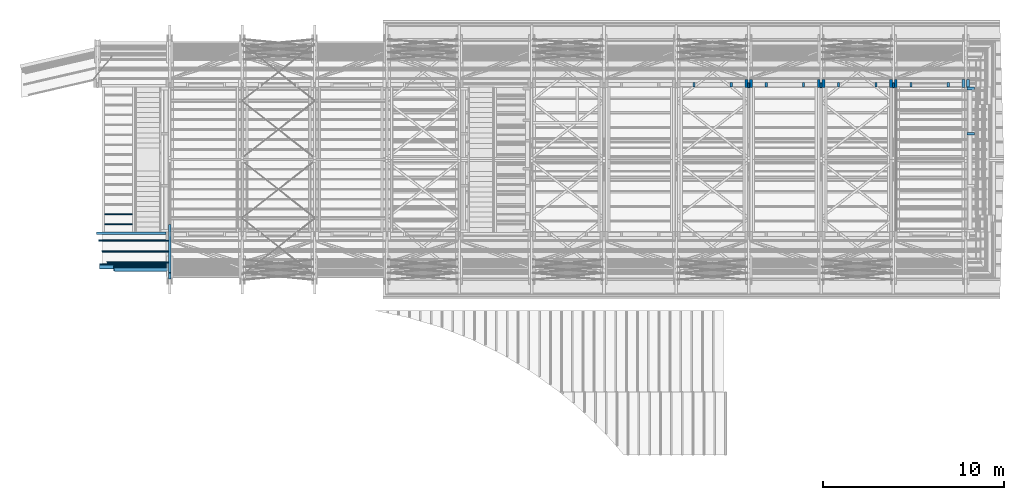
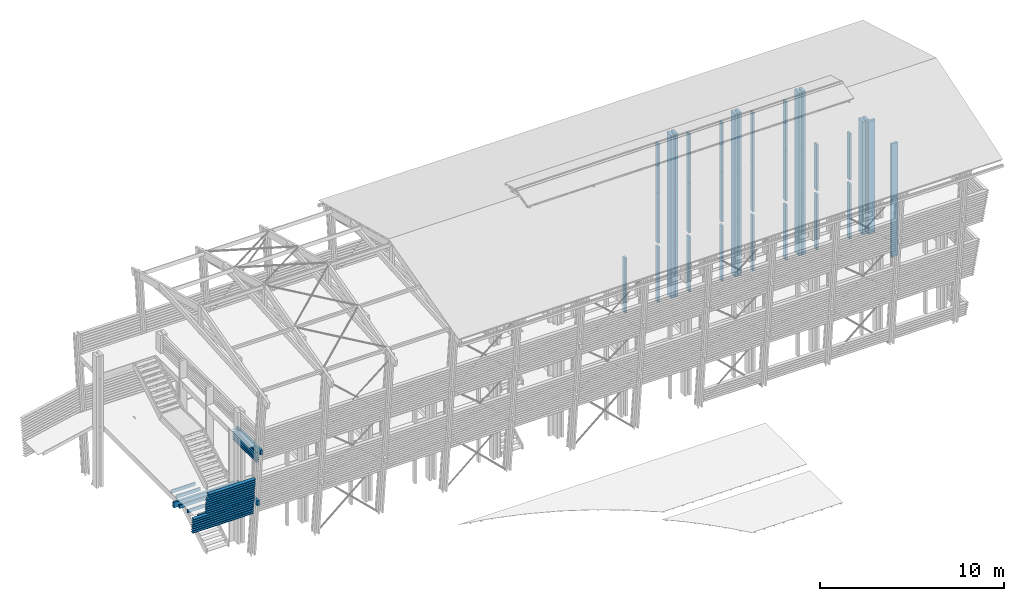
# One storey, part 4 of 48: 39 columns, 29 beams.
"""IFC2X3 building model written with IfcOpenShell, lengths in metres."""

from ifc_helpers import new_model, si_unit, direction, frame, origin_with_axes, place, context, subcontext, project, spatial, faceted_brep, material, element, save


model = new_model("IFC2X3")

# Units and contexts
model_context = context("Model", 3, precision=1e-06, world=origin_with_axes(), true_north=direction((0.0, 1.0, 0.0)))
body_context = subcontext(model_context, "Body", "Model", "MODEL_VIEW")
ifc_project = project(units=[si_unit("LENGTHUNIT", "METRE"), si_unit("AREAUNIT", "SQUARE_METRE"), si_unit("VOLUMEUNIT", "CUBIC_METRE"), si_unit("PLANEANGLEUNIT", "RADIAN")], contexts=[model_context])

# Site, building, storey
site_placement = place(None, origin_with_axes())
site = spatial("IfcSite", under=ifc_project, at=site_placement, CompositionType="ELEMENT")
building_placement = place(site_placement, origin_with_axes())
building = spatial("IfcBuilding", under=site, at=building_placement, Name="Building 1", CompositionType="ELEMENT")
storey_placement = place(building_placement, origin_with_axes())
storey = spatial("IfcBuildingStorey", under=building, at=storey_placement, Name="Storey 1", CompositionType="ELEMENT", Elevation=0.0)

# Columns
ifc_material_1 = material(Name="GL28h")
for number, where, z_axis, x_axis, name in (
    (1, (66.4597437, -185.0764881, 0.3), (0.0, 1.0, 0.0), (0.0, 0.0, 1.0), "poteau encadrement menuiserie"),
    (2, (68.5197437, -185.0764881, 0.3), (0.0, 1.0, 0.0), (0.0, 0.0, 1.0), "poteau encadrement menuiserie"),
):
    element("IfcColumn", number, at=place(storey_placement, frame(where, z_axis=z_axis, x_axis=x_axis)), inside=storey, material=ifc_material_1, Name=name, context=body_context, shape_type="Brep", body=[
        faceted_brep([(3.655, -0.06, -0.13), (0.0, -0.06, -0.13), (0.0, 0.06, -0.13), (3.655, 0.06, -0.13), (3.655, -0.06, 0.13), (0.0, -0.06, 0.13), (3.655, 0.06, 0.13), (0.0, 0.06, 0.13)], [[[0, 1, 2, 3]], [[4, 5, 1, 0]], [[6, 7, 5, 4]], [[3, 2, 7, 6]], [[3, 6, 4, 0]], [[7, 2, 1, 5]]]),
    ])
column_1_placement = place(storey_placement, frame((69.3597437, -184.9964881, 0.3), z_axis=(0.0, -1.0, 0.0), x_axis=(0.0, 0.0, 1.0)))
element("IfcColumn", 3, at=column_1_placement, inside=storey, material=ifc_material_1, Name="Poteau", context=body_context, shape_type="Brep", body=[
    faceted_brep([(7.49, 0.08, -0.23), (7.49, -0.08, -0.23), (0.0, -0.08, -0.23), (0.0, 0.08, -0.23), (7.49, -0.08, 0.23), (0.0, -0.08, 0.23), (7.49, 0.08, 0.23), (0.0, 0.08, 0.23)], [[[0, 1, 2, 3]], [[1, 4, 5, 2]], [[4, 6, 7, 5]], [[2, 5, 7, 3]], [[6, 0, 3, 7]], [[0, 6, 4, 1]]]),
])
column_2_placement = place(storey_placement, frame((66.4597437, -185.0764881, 4.215), z_axis=(0.0, -1.0, 0.0), x_axis=(0.0, 0.0, 1.0)))
element("IfcColumn", 4, at=column_2_placement, inside=storey, material=ifc_material_1, Name="poteau encadrement menuiserie", context=body_context, shape_type="Brep", body=[
    faceted_brep([(3.055, 0.06, -0.13), (3.055, -0.06, -0.13), (0.0, -0.06, -0.13), (0.0, 0.06, -0.13), (3.055, -0.06, 0.13), (0.0, -0.06, 0.13), (3.055, 0.06, 0.13), (0.0, 0.06, 0.13)], [[[0, 1, 2, 3]], [[1, 4, 5, 2]], [[4, 6, 7, 5]], [[6, 0, 3, 7]], [[0, 6, 4, 1]], [[7, 3, 2, 5]]]),
])
column_3_placement = place(storey_placement, frame((69.6197437, -184.9964881, 0.3), z_axis=(0.0, -1.0, 0.0), x_axis=(0.0, 0.0, 1.0)))
element("IfcColumn", 5, at=column_3_placement, inside=storey, material=ifc_material_1, Name="Poteau", context=body_context, shape_type="Brep", body=[
    faceted_brep([(7.49, 0.08, -0.23), (7.49, -0.08, -0.23), (0.0, -0.08, -0.23), (0.0, 0.08, -0.23), (7.49, -0.08, 0.23), (0.0, -0.08, 0.23), (7.49, 0.08, 0.23), (0.0, 0.08, 0.23)], [[[0, 1, 2, 3]], [[1, 4, 5, 2]], [[4, 6, 7, 5]], [[2, 5, 7, 3]], [[6, 0, 3, 7]], [[0, 6, 4, 1]]]),
])
column_4_placement = place(storey_placement, frame((68.5197437, -185.0764881, 4.215), z_axis=(0.0, -1.0, 0.0), x_axis=(0.0, 0.0, 1.0)))
element("IfcColumn", 6, at=column_4_placement, inside=storey, material=ifc_material_1, Name="poteau encadrement menuiserie", context=body_context, shape_type="Brep", body=[
    faceted_brep([(3.055, 0.06, -0.13), (3.055, -0.06, -0.13), (0.0, -0.06, -0.13), (0.0, 0.06, -0.13), (3.055, -0.06, 0.13), (0.0, -0.06, 0.13), (3.055, 0.06, 0.13), (0.0, 0.06, 0.13)], [[[0, 1, 2, 3]], [[1, 4, 5, 2]], [[4, 6, 7, 5]], [[6, 0, 3, 7]], [[0, 6, 4, 1]], [[7, 3, 2, 5]]]),
])
column_5_placement = place(storey_placement, frame((69.7697437, -185.2764885, 0.3), z_axis=(-1.0, 0.0, 0.0), x_axis=(0.0, 0.0, 1.0)))
element("IfcColumn", 7, at=column_5_placement, inside=storey, material=ifc_material_1, Name="poteau", context=body_context, shape_type="Brep", body=[
    faceted_brep([(7.49, -0.07, 0.21), (7.49, 0.07, 0.21), (0.0, 0.07, 0.21), (0.0, -0.07, 0.21), (7.49, 0.07, -0.21), (0.0, 0.07, -0.21), (7.49, -0.07, -0.21), (0.0, -0.07, -0.21)], [[[0, 1, 2, 3]], [[1, 4, 5, 2]], [[4, 6, 7, 5]], [[6, 0, 3, 7]], [[0, 6, 4, 1]], [[3, 2, 5, 7]]]),
])
column_6_placement = place(storey_placement, frame((69.7697437, -187.7680698, 0.3), z_axis=(1.0, 0.0, 0.0), x_axis=(0.0, 0.0, 1.0)))
element("IfcColumn", 8, at=column_6_placement, inside=storey, material=ifc_material_1, Name="poteau", context=body_context, shape_type="Brep", body=[
    faceted_brep([(7.49, 0.07, 0.21), (7.49, 0.07, -0.21), (0.0, 0.07, -0.21), (0.0, 0.07, 0.21), (7.49, -0.07, -0.21), (0.0, -0.07, -0.21), (7.49, -0.07, 0.21), (0.0, -0.07, 0.21)], [[[0, 1, 2, 3]], [[1, 4, 5, 2]], [[4, 6, 7, 5]], [[6, 0, 3, 7]], [[0, 6, 4, 1]], [[3, 2, 5, 7]]]),
])
column_7_placement = place(storey_placement, frame((62.4597437, -185.0764881, 7.495), z_axis=(0.0, 1.0, 0.0), x_axis=(0.0, 0.0, 1.0)))
element("IfcColumn", 9, at=column_7_placement, inside=storey, material=ifc_material_1, Name="poteau encadrement menuiserie", context=body_context, shape_type="Brep", body=[
    faceted_brep([(0.0, -0.06, 0.13), (3.285, -0.06, 0.13), (3.285, 0.06, 0.13), (0.0, 0.06, 0.13), (3.285, 0.06, -0.13), (0.0, 0.06, -0.13), (3.285, -0.06, -0.13), (0.0, -0.06, -0.13)], [[[0, 1, 2, 3]], [[3, 2, 4, 5]], [[5, 4, 6, 7]], [[7, 0, 3, 5]], [[7, 6, 1, 0]], [[1, 6, 4, 2]]]),
])
column_8_placement = place(storey_placement, frame((60.5197437, -185.0764881, 4.215), z_axis=(0.0, -1.0, 0.0), x_axis=(0.0, 0.0, 1.0)))
element("IfcColumn", 10, at=column_8_placement, inside=storey, material=ifc_material_1, Name="poteau encadrement menuiserie", context=body_context, shape_type="Brep", body=[
    faceted_brep([(3.3, 0.06, 0.13), (3.3, 0.06, -0.13), (0.0, 0.06, -0.13), (0.0, 0.06, 0.13), (3.3, -0.06, -0.13), (0.0, -0.06, -0.13), (3.3, -0.06, 0.13), (0.0, -0.06, 0.13)], [[[0, 1, 2, 3]], [[1, 4, 5, 2]], [[4, 6, 7, 5]], [[6, 0, 3, 7]], [[0, 6, 4, 1]], [[3, 2, 5, 7]]]),
])
column_9_placement = place(storey_placement, frame((62.4597437, -185.0764881, 0.3), z_axis=(0.0, 1.0, 0.0), x_axis=(0.0, 0.0, 1.0)))
element("IfcColumn", 11, at=column_9_placement, inside=storey, material=ifc_material_1, Name="poteau encadrement menuiserie", context=body_context, shape_type="Brep", body=[
    faceted_brep([(3.655, -0.06, -0.13), (0.0, -0.06, -0.13), (0.0, 0.06, -0.13), (3.655, 0.06, -0.13), (3.655, -0.06, 0.13), (0.0, -0.06, 0.13), (3.655, 0.06, 0.13), (0.0, 0.06, 0.13)], [[[0, 1, 2, 3]], [[4, 5, 1, 0]], [[6, 7, 5, 4]], [[3, 2, 7, 6]], [[3, 6, 4, 0]], [[7, 2, 1, 5]]]),
])
column_10_placement = place(storey_placement, frame((65.4897437, -185.0964881, 4.249), z_axis=(0.0, 1.0, 0.0), x_axis=(0.0, 0.0, 1.0)))
element("IfcColumn", 12, at=column_10_placement, inside=storey, material=ifc_material_1, Name="Fourrure", context=body_context, shape_type="Brep", body=[
    faceted_brep([(0.0, 0.05, -0.13), (0.0, -0.05, -0.13), (0.0, -0.05, 0.13), (0.0, 0.05, 0.13), (2.96, -0.05, -0.13), (2.96, -0.05, 0.13), (2.96, 0.05, -0.13), (2.96, 0.05, 0.13)], [[[0, 1, 2, 3]], [[2, 1, 4, 5]], [[1, 0, 6, 4]], [[3, 2, 5, 7]], [[0, 3, 7, 6]], [[6, 7, 5, 4]]]),
])
for number, where, z_axis, x_axis, name in (
    (13, (57.3597437, -184.9964881, 0.3), (0.0, 1.0, 0.0), (0.0, 0.0, 1.0), "Poteau"),
    (14, (65.6197437, -184.9964881, 0.3), (0.0, 1.0, 0.0), (0.0, 0.0, 1.0), "Poteau"),
    (15, (57.6197437, -184.9964881, 0.3), (0.0, 1.0, 0.0), (0.0, 0.0, 1.0), "Poteau"),
):
    element("IfcColumn", number, at=place(storey_placement, frame(where, z_axis=z_axis, x_axis=x_axis)), inside=storey, material=ifc_material_1, Name=name, context=body_context, shape_type="Brep", body=[
        faceted_brep([(10.8, 0.08, 0.23), (0.0, 0.08, 0.23), (0.0, -0.08, 0.23), (10.8, -0.08, 0.23), (10.8, 0.08, -0.23), (0.0, 0.08, -0.23), (10.8, -0.08, -0.23), (0.0, -0.08, -0.23)], [[[0, 1, 2, 3]], [[0, 4, 5, 1]], [[6, 7, 5, 4]], [[2, 7, 6, 3]], [[1, 5, 7, 2]], [[3, 6, 4, 0]]]),
    ])
for number, where, z_axis, x_axis in (
    (16, (61.4897437, -185.0964881, 7.529), (0.0, 1.0, 0.0), (0.0, 0.0, 1.0)),
    (17, (57.4897437, -185.0964881, 7.529), (0.0, 1.0, 0.0), (0.0, 0.0, 1.0)),
):
    element("IfcColumn", number, at=place(storey_placement, frame(where, z_axis=z_axis, x_axis=x_axis)), inside=storey, material=ifc_material_1, Name="Fourrure", context=body_context, shape_type="Brep", body=[
        faceted_brep([(0.0, -0.05, -0.13), (0.0, 0.05, -0.13), (3.571, 0.05, -0.13), (3.571, -0.05, -0.13), (0.0, -0.05, 0.13), (3.571, -0.05, 0.13), (0.0, 0.05, 0.13), (3.571, 0.05, 0.13)], [[[0, 1, 2, 3]], [[4, 0, 3, 5]], [[6, 4, 5, 7]], [[1, 6, 7, 2]], [[1, 0, 4, 6]], [[2, 7, 5, 3]]]),
    ])
column_11_placement = place(storey_placement, frame((57.4897437, -185.0964881, 4.249), z_axis=(0.0, 1.0, 0.0), x_axis=(0.0, 0.0, 1.0)))
element("IfcColumn", 18, at=column_11_placement, inside=storey, material=ifc_material_1, Name="Fourrure", context=body_context, shape_type="Brep", body=[
    faceted_brep([(0.0, 0.05, -0.13), (0.0, -0.05, -0.13), (0.0, -0.05, 0.13), (0.0, 0.05, 0.13), (2.96, -0.05, -0.13), (2.96, -0.05, 0.13), (2.96, 0.05, -0.13), (2.96, 0.05, 0.13)], [[[0, 1, 2, 3]], [[2, 1, 4, 5]], [[1, 0, 6, 4]], [[3, 2, 5, 7]], [[0, 3, 7, 6]], [[6, 7, 5, 4]]]),
])
for number, where, z_axis, x_axis in (
    (19, (57.4897437, -185.0964881, 0.3), (0.0, 1.0, 0.0), (0.0, 0.0, 1.0)),
    (20, (65.4897437, -185.0964881, 0.3), (0.0, 1.0, 0.0), (0.0, 0.0, 1.0)),
):
    element("IfcColumn", number, at=place(storey_placement, frame(where, z_axis=z_axis, x_axis=x_axis)), inside=storey, material=ifc_material_1, Name="Fourrure", context=body_context, shape_type="Brep", body=[
        faceted_brep([(3.629, 0.05, -0.13), (3.629, 0.05, 0.13), (3.629, -0.05, 0.13), (3.629, -0.05, -0.13), (0.0, 0.05, 0.13), (0.0, -0.05, 0.13), (0.0, 0.05, -0.13), (0.0, -0.05, -0.13)], [[[0, 1, 2, 3]], [[2, 1, 4, 5]], [[1, 0, 6, 4]], [[0, 3, 7, 6]], [[3, 2, 5, 7]], [[4, 6, 7, 5]]]),
    ])
column_12_placement = place(storey_placement, frame((61.3597437, -184.9964881, 0.3), z_axis=(0.0, 1.0, 0.0), x_axis=(0.0, 0.0, 1.0)))
element("IfcColumn", 21, at=column_12_placement, inside=storey, material=ifc_material_1, Name="Poteau", context=body_context, shape_type="Brep", body=[
    faceted_brep([(10.8, 0.08, 0.23), (0.0, 0.08, 0.23), (0.0, -0.08, 0.23), (10.8, -0.08, 0.23), (10.8, 0.08, -0.23), (0.0, 0.08, -0.23), (10.8, -0.08, -0.23), (0.0, -0.08, -0.23)], [[[0, 1, 2, 3]], [[0, 4, 5, 1]], [[6, 7, 5, 4]], [[2, 7, 6, 3]], [[1, 5, 7, 2]], [[3, 6, 4, 0]]]),
])
column_13_placement = place(storey_placement, frame((61.4897437, -185.0964881, 0.3), z_axis=(0.0, 1.0, 0.0), x_axis=(0.0, 0.0, 1.0)))
element("IfcColumn", 22, at=column_13_placement, inside=storey, material=ifc_material_1, Name="Fourrure", context=body_context, shape_type="Brep", body=[
    faceted_brep([(3.629, 0.05, -0.13), (3.629, 0.05, 0.13), (3.629, -0.05, 0.13), (3.629, -0.05, -0.13), (0.0, 0.05, 0.13), (0.0, -0.05, 0.13), (0.0, 0.05, -0.13), (0.0, -0.05, -0.13)], [[[0, 1, 2, 3]], [[2, 1, 4, 5]], [[1, 0, 6, 4]], [[0, 3, 7, 6]], [[3, 2, 5, 7]], [[4, 6, 7, 5]]]),
])
column_14_placement = place(storey_placement, frame((61.4897437, -185.0964881, 4.249), z_axis=(0.0, 1.0, 0.0), x_axis=(0.0, 0.0, 1.0)))
element("IfcColumn", 23, at=column_14_placement, inside=storey, material=ifc_material_1, Name="Fourrure", context=body_context, shape_type="Brep", body=[
    faceted_brep([(0.0, 0.05, -0.13), (0.0, -0.05, -0.13), (0.0, -0.05, 0.13), (0.0, 0.05, 0.13), (2.96, -0.05, -0.13), (2.96, -0.05, 0.13), (2.96, 0.05, -0.13), (2.96, 0.05, 0.13)], [[[0, 1, 2, 3]], [[2, 1, 4, 5]], [[1, 0, 6, 4]], [[3, 2, 5, 7]], [[0, 3, 7, 6]], [[6, 7, 5, 4]]]),
])
for number, where, z_axis, x_axis, name in (
    (24, (61.6197437, -184.9964881, 0.3), (0.0, 1.0, 0.0), (0.0, 0.0, 1.0), "Poteau"),
    (25, (65.3597437, -184.9964881, 0.3), (0.0, 1.0, 0.0), (0.0, 0.0, 1.0), "Poteau"),
):
    element("IfcColumn", number, at=place(storey_placement, frame(where, z_axis=z_axis, x_axis=x_axis)), inside=storey, material=ifc_material_1, Name=name, context=body_context, shape_type="Brep", body=[
        faceted_brep([(10.8, 0.08, 0.23), (0.0, 0.08, 0.23), (0.0, -0.08, 0.23), (10.8, -0.08, 0.23), (10.8, 0.08, -0.23), (0.0, 0.08, -0.23), (10.8, -0.08, -0.23), (0.0, -0.08, -0.23)], [[[0, 1, 2, 3]], [[0, 4, 5, 1]], [[6, 7, 5, 4]], [[2, 7, 6, 3]], [[1, 5, 7, 2]], [[3, 6, 4, 0]]]),
    ])
column_15_placement = place(storey_placement, frame((65.4897437, -185.0964881, 7.529), z_axis=(0.0, 1.0, 0.0), x_axis=(0.0, 0.0, 1.0)))
element("IfcColumn", 26, at=column_15_placement, inside=storey, material=ifc_material_1, Name="Fourrure", context=body_context, shape_type="Brep", body=[
    faceted_brep([(0.0, -0.05, -0.13), (0.0, 0.05, -0.13), (3.571, 0.05, -0.13), (3.571, -0.05, -0.13), (0.0, -0.05, 0.13), (3.571, -0.05, 0.13), (0.0, 0.05, 0.13), (3.571, 0.05, 0.13)], [[[0, 1, 2, 3]], [[4, 0, 3, 5]], [[6, 4, 5, 7]], [[1, 6, 7, 2]], [[1, 0, 4, 6]], [[2, 7, 5, 3]]]),
])
for number, where, z_axis, x_axis, name in (
    (27, (60.5197437, -185.0764881, 7.495), (0.0, -1.0, 0.0), (0.0, 0.0, 1.0), "poteau encadrement menuiserie"),
    (28, (64.5197437, -185.0764881, 7.495), (0.0, -1.0, 0.0), (0.0, 0.0, 1.0), "poteau encadrement menuiserie"),
):
    element("IfcColumn", number, at=place(storey_placement, frame(where, z_axis=z_axis, x_axis=x_axis)), inside=storey, material=ifc_material_1, Name=name, context=body_context, shape_type="Brep", body=[
        faceted_brep([(0.0, -0.06, 0.13), (3.285, -0.06, 0.13), (3.285, 0.06, 0.13), (0.0, 0.06, 0.13), (3.285, 0.06, -0.13), (0.0, 0.06, -0.13), (3.285, -0.06, -0.13), (0.0, -0.06, -0.13)], [[[0, 1, 2, 3]], [[3, 2, 4, 5]], [[5, 4, 6, 7]], [[7, 0, 3, 5]], [[7, 6, 1, 0]], [[1, 6, 4, 2]]]),
    ])
column_16_placement = place(storey_placement, frame((56.5197437, -185.0764881, 0.3), z_axis=(0.0, 1.0, 0.0), x_axis=(0.0, 0.0, 1.0)))
element("IfcColumn", 29, at=column_16_placement, inside=storey, material=ifc_material_1, Name="poteau encadrement menuiserie", context=body_context, shape_type="Brep", body=[
    faceted_brep([(3.655, -0.06, -0.13), (0.0, -0.06, -0.13), (0.0, 0.06, -0.13), (3.655, 0.06, -0.13), (3.655, -0.06, 0.13), (0.0, -0.06, 0.13), (3.655, 0.06, 0.13), (0.0, 0.06, 0.13)], [[[0, 1, 2, 3]], [[4, 5, 1, 0]], [[6, 7, 5, 4]], [[3, 2, 7, 6]], [[3, 6, 4, 0]], [[7, 2, 1, 5]]]),
])
for number, where, z_axis, x_axis, name in (
    (30, (58.4597437, -185.0764881, 7.495), (0.0, 1.0, 0.0), (0.0, 0.0, 1.0), "poteau encadrement menuiserie"),
    (31, (56.5197437, -185.0764881, 7.495), (0.0, -1.0, 0.0), (0.0, 0.0, 1.0), "poteau encadrement menuiserie"),
):
    element("IfcColumn", number, at=place(storey_placement, frame(where, z_axis=z_axis, x_axis=x_axis)), inside=storey, material=ifc_material_1, Name=name, context=body_context, shape_type="Brep", body=[
        faceted_brep([(0.0, -0.06, 0.13), (3.285, -0.06, 0.13), (3.285, 0.06, 0.13), (0.0, 0.06, 0.13), (3.285, 0.06, -0.13), (0.0, 0.06, -0.13), (3.285, -0.06, -0.13), (0.0, -0.06, -0.13)], [[[0, 1, 2, 3]], [[3, 2, 4, 5]], [[5, 4, 6, 7]], [[7, 0, 3, 5]], [[7, 6, 1, 0]], [[1, 6, 4, 2]]]),
    ])
for number, where, z_axis, x_axis, name in (
    (32, (54.4597437, -185.0764881, 0.3), (0.0, 1.0, 0.0), (0.0, 0.0, 1.0), "poteau encadrement menuiserie"),
    (33, (60.5197437, -185.0764881, 0.3), (0.0, 1.0, 0.0), (0.0, 0.0, 1.0), "poteau encadrement menuiserie"),
):
    element("IfcColumn", number, at=place(storey_placement, frame(where, z_axis=z_axis, x_axis=x_axis)), inside=storey, material=ifc_material_1, Name=name, context=body_context, shape_type="Brep", body=[
        faceted_brep([(3.655, -0.06, -0.13), (0.0, -0.06, -0.13), (0.0, 0.06, -0.13), (3.655, 0.06, -0.13), (3.655, -0.06, 0.13), (0.0, -0.06, 0.13), (3.655, 0.06, 0.13), (0.0, 0.06, 0.13)], [[[0, 1, 2, 3]], [[4, 5, 1, 0]], [[6, 7, 5, 4]], [[3, 2, 7, 6]], [[3, 6, 4, 0]], [[7, 2, 1, 5]]]),
    ])
column_17_placement = place(storey_placement, frame((56.5197437, -185.0764881, 4.215), z_axis=(0.0, -1.0, 0.0), x_axis=(0.0, 0.0, 1.0)))
element("IfcColumn", 34, at=column_17_placement, inside=storey, material=ifc_material_1, Name="poteau encadrement menuiserie", context=body_context, shape_type="Brep", body=[
    faceted_brep([(3.3, 0.06, 0.13), (3.3, 0.06, -0.13), (0.0, 0.06, -0.13), (0.0, 0.06, 0.13), (3.3, -0.06, -0.13), (0.0, -0.06, -0.13), (3.3, -0.06, 0.13), (0.0, -0.06, 0.13)], [[[0, 1, 2, 3]], [[1, 4, 5, 2]], [[4, 6, 7, 5]], [[6, 0, 3, 7]], [[0, 6, 4, 1]], [[3, 2, 5, 7]]]),
])
column_18_placement = place(storey_placement, frame((58.4597437, -185.0764881, 0.3), z_axis=(0.0, 1.0, 0.0), x_axis=(0.0, 0.0, 1.0)))
element("IfcColumn", 35, at=column_18_placement, inside=storey, material=ifc_material_1, Name="poteau encadrement menuiserie", context=body_context, shape_type="Brep", body=[
    faceted_brep([(3.655, -0.06, -0.13), (0.0, -0.06, -0.13), (0.0, 0.06, -0.13), (3.655, 0.06, -0.13), (3.655, -0.06, 0.13), (0.0, -0.06, 0.13), (3.655, 0.06, 0.13), (0.0, 0.06, 0.13)], [[[0, 1, 2, 3]], [[4, 5, 1, 0]], [[6, 7, 5, 4]], [[3, 2, 7, 6]], [[3, 6, 4, 0]], [[7, 2, 1, 5]]]),
])
for number, where, z_axis, x_axis, name in (
    (36, (58.4597437, -185.0764881, 4.215), (0.0, -1.0, 0.0), (0.0, 0.0, 1.0), "poteau encadrement menuiserie"),
    (37, (64.5197437, -185.0764881, 4.215), (0.0, -1.0, 0.0), (0.0, 0.0, 1.0), "poteau encadrement menuiserie"),
):
    element("IfcColumn", number, at=place(storey_placement, frame(where, z_axis=z_axis, x_axis=x_axis)), inside=storey, material=ifc_material_1, Name=name, context=body_context, shape_type="Brep", body=[
        faceted_brep([(3.3, 0.06, 0.13), (3.3, 0.06, -0.13), (0.0, 0.06, -0.13), (0.0, 0.06, 0.13), (3.3, -0.06, -0.13), (0.0, -0.06, -0.13), (3.3, -0.06, 0.13), (0.0, -0.06, 0.13)], [[[0, 1, 2, 3]], [[1, 4, 5, 2]], [[4, 6, 7, 5]], [[6, 0, 3, 7]], [[0, 6, 4, 1]], [[3, 2, 5, 7]]]),
    ])
column_19_placement = place(storey_placement, frame((64.5197437, -185.0764881, 0.3), z_axis=(0.0, 1.0, 0.0), x_axis=(0.0, 0.0, 1.0)))
element("IfcColumn", 38, at=column_19_placement, inside=storey, material=ifc_material_1, Name="poteau encadrement menuiserie", context=body_context, shape_type="Brep", body=[
    faceted_brep([(3.655, -0.06, -0.13), (0.0, -0.06, -0.13), (0.0, 0.06, -0.13), (3.655, 0.06, -0.13), (3.655, -0.06, 0.13), (0.0, -0.06, 0.13), (3.655, 0.06, 0.13), (0.0, 0.06, 0.13)], [[[0, 1, 2, 3]], [[4, 5, 1, 0]], [[6, 7, 5, 4]], [[3, 2, 7, 6]], [[3, 6, 4, 0]], [[7, 2, 1, 5]]]),
])
column_20_placement = place(storey_placement, frame((62.4597437, -185.0764881, 4.215), z_axis=(0.0, -1.0, 0.0), x_axis=(0.0, 0.0, 1.0)))
element("IfcColumn", 39, at=column_20_placement, inside=storey, material=ifc_material_1, Name="poteau encadrement menuiserie", context=body_context, shape_type="Brep", body=[
    faceted_brep([(3.3, 0.06, 0.13), (3.3, 0.06, -0.13), (0.0, 0.06, -0.13), (0.0, 0.06, 0.13), (3.3, -0.06, -0.13), (0.0, -0.06, -0.13), (3.3, -0.06, 0.13), (0.0, -0.06, 0.13)], [[[0, 1, 2, 3]], [[1, 4, 5, 2]], [[4, 6, 7, 5]], [[6, 0, 3, 7]], [[0, 6, 4, 1]], [[3, 2, 5, 7]]]),
])

# Beams
beam_1_placement = place(storey_placement, frame((21.8897437, -192.7830698, 4.139), z_axis=(0.0, 0.0, 1.0), x_axis=(1.0, 0.0, 0.0)))
element("IfcBeam", 40, at=beam_1_placement, inside=storey, material=ifc_material_1, Name="Solive", context=body_context, shape_type="Brep", body=[
    faceted_brep([(1.53, 0.035, 0.11), (1.53, 0.035, -0.11), (0.0, 0.035, -0.11), (0.0, 0.035, 0.11), (1.53, -0.035, -0.11), (0.0, -0.035, -0.11), (1.53, -0.035, 0.11), (0.0, -0.035, 0.11)], [[[0, 1, 2, 3]], [[1, 4, 5, 2]], [[4, 6, 7, 5]], [[6, 0, 3, 7]], [[1, 0, 6, 4]], [[7, 3, 2, 5]]]),
])
beam_2_placement = place(storey_placement, frame((22.0067754, -194.898689, 4.139), z_axis=(0.0, 0.0, 1.0), x_axis=(1.0, 0.0, 0.0)))
element("IfcBeam", 41, at=beam_2_placement, inside=storey, material=ifc_material_1, Name="Solive", context=body_context, shape_type="Brep", body=[
    faceted_brep([(0.0, 0.035, 0.11), (0.0, 0.035, -0.11), (0.032553, -0.035, -0.11), (0.032553, -0.035, 0.11), (3.4129683, 0.035, -0.11), (3.4129683, -0.035, -0.11), (3.4129683, 0.035, 0.11), (3.4129683, -0.035, 0.11)], [[[0, 1, 2, 3]], [[2, 1, 4, 5]], [[1, 0, 6, 4]], [[3, 2, 5, 7]], [[0, 3, 7, 6]], [[4, 6, 7, 5]]]),
])
ifc_material_2 = material(Name="Moabi")
for number, where, z_axis, x_axis, name in (
    (42, (25.3927439, -195.2111412, 4.8503738), (0.0, 0.9945219, 0.1045285), (-1.0, 0.0, 0.0), "garde corp"),
    (43, (25.3927439, -195.1944166, 4.6912503), (0.0, 0.9945219, 0.1045285), (-1.0, 0.0, 0.0), "garde corp"),
):
    element("IfcBeam", number, at=place(storey_placement, frame(where, z_axis=z_axis, x_axis=x_axis)), inside=storey, material=ifc_material_2, Name=name, context=body_context, shape_type="Brep", body=[
        faceted_brep([(3.0093263, 0.02, -0.1), (3.0093263, -0.02, -0.1), (0.0, -0.02, -0.1), (0.0, 0.02, -0.1), (3.0093263, -0.02, 0.1), (0.0, -0.02, 0.1), (3.0093263, 0.02, 0.1), (0.0, 0.02, 0.1)], [[[0, 1, 2, 3]], [[1, 4, 5, 2]], [[4, 6, 7, 5]], [[6, 0, 3, 7]], [[1, 0, 6, 4]], [[7, 3, 2, 5]]]),
    ])
for number, where, z_axis, x_axis, name in (
    (44, (25.3927439, -195.0940693, 3.7365093), (0.0, 0.9945219, 0.1045285), (-1.0, 0.0, 0.0), "garde corp"),
    (45, (25.3927439, -195.1107938, 3.8956328), (0.0, 0.9945219, 0.1045285), (-1.0, 0.0, 0.0), "garde corp"),
):
    element("IfcBeam", number, at=place(storey_placement, frame(where, z_axis=z_axis, x_axis=x_axis)), inside=storey, material=ifc_material_2, Name=name, context=body_context, shape_type="Brep", body=[
        faceted_brep([(3.8047069, 0.02, -0.1), (3.8047071, -0.02, -0.1), (0.0, -0.02, -0.1), (0.0, 0.02, -0.1), (3.8047071, -0.02, 0.1), (0.0, -0.02, 0.1), (3.8047071, 0.02, 0.1), (0.0, 0.02, 0.1)], [[[0, 1, 2, 3]], [[1, 4, 5, 2]], [[4, 6, 7, 5]], [[6, 0, 3, 7]], [[1, 0, 6, 4]], [[7, 3, 2, 5]]]),
    ])
beam_3_placement = place(storey_placement, frame((25.3927439, -195.2613148, 5.3277443), z_axis=(0.0, 0.9945219, 0.1045285), x_axis=(-1.0, 0.0, 0.0)))
element("IfcBeam", 46, at=beam_3_placement, inside=storey, material=ifc_material_2, Name="garde corp", context=body_context, shape_type="Brep", body=[
    faceted_brep([(3.0093265, 0.02, -0.1), (3.0093263, -0.02, -0.1), (0.0, -0.02, -0.1), (0.0, 0.02, -0.1), (3.0093263, -0.02, 0.1), (0.0, -0.02, 0.1), (3.0093263, 0.02, 0.1), (0.0, 0.02, 0.1)], [[[0, 1, 2, 3]], [[1, 4, 5, 2]], [[4, 6, 7, 5]], [[6, 0, 3, 7]], [[1, 0, 6, 4]], [[7, 3, 2, 5]]]),
])
beam_4_placement = place(storey_placement, frame((25.3927439, -195.2780394, 5.4868678), z_axis=(0.0, 0.9945219, 0.1045285), x_axis=(-1.0, 0.0, 0.0)))
element("IfcBeam", 47, at=beam_4_placement, inside=storey, material=ifc_material_2, Name="garde corp", context=body_context, shape_type="Brep", body=[
    faceted_brep([(2.9551296, 0.02, -0.1), (2.9551296, -0.02, -0.1), (0.0, -0.02, -0.1), (0.0, 0.02, -0.1), (2.9551296, -0.02, 0.1), (0.0, -0.02, 0.1), (2.9551296, 0.02, 0.1), (0.0, 0.02, 0.1)], [[[0, 1, 2, 3]], [[1, 4, 5, 2]], [[4, 6, 7, 5]], [[6, 0, 3, 7]], [[1, 0, 6, 4]], [[7, 3, 2, 5]]]),
])
beam_5_placement = place(storey_placement, frame((25.3927439, -195.2278657, 5.0094973), z_axis=(0.0, 0.9945219, 0.1045285), x_axis=(-1.0, 0.0, 0.0)))
element("IfcBeam", 48, at=beam_5_placement, inside=storey, material=ifc_material_2, Name="garde corp", context=body_context, shape_type="Brep", body=[
    faceted_brep([(3.0093265, 0.02, -0.1), (3.0093263, -0.02, -0.1), (0.0, -0.02, -0.1), (0.0, 0.02, -0.1), (3.0093263, -0.02, 0.1), (0.0, -0.02, 0.1), (3.0093263, 0.02, 0.1), (0.0, 0.02, 0.1)], [[[0, 1, 2, 3]], [[1, 4, 5, 2]], [[4, 6, 7, 5]], [[6, 0, 3, 7]], [[1, 0, 6, 4]], [[7, 3, 2, 5]]]),
])
beam_6_placement = place(storey_placement, frame((25.3927439, -195.2445903, 5.1686208), z_axis=(0.0, 0.9945219, 0.1045285), x_axis=(-1.0, 0.0, 0.0)))
element("IfcBeam", 49, at=beam_6_placement, inside=storey, material=ifc_material_2, Name="garde corp", context=body_context, shape_type="Brep", body=[
    faceted_brep([(3.0093263, 0.02, -0.1), (3.0093263, -0.02, -0.1), (0.0, -0.02, -0.1), (0.0, 0.02, -0.1), (3.0093263, -0.02, 0.1), (0.0, -0.02, 0.1), (3.0093263, 0.02, 0.1), (0.0, 0.02, 0.1)], [[[0, 1, 2, 3]], [[1, 4, 5, 2]], [[4, 6, 7, 5]], [[6, 0, 3, 7]], [[1, 0, 6, 4]], [[7, 3, 2, 5]]]),
])
beam_7_placement = place(storey_placement, frame((25.3927439, -195.1442429, 4.2138798), z_axis=(0.0, 0.9945219, 0.1045285), x_axis=(-1.0, 0.0, 0.0)))
element("IfcBeam", 50, at=beam_7_placement, inside=storey, material=ifc_material_2, Name="garde corp", context=body_context, shape_type="Brep", body=[
    faceted_brep([(3.8048051, 0.02, -0.1), (3.8048051, -0.02, -0.1), (0.0, -0.02, -0.1), (0.0, 0.02, -0.1), (3.8048051, -0.02, 0.1), (0.0, -0.02, 0.1), (3.8048051, 0.02, 0.1), (0.0, 0.02, 0.1)], [[[0, 1, 2, 3]], [[1, 4, 5, 2]], [[4, 6, 7, 5]], [[6, 0, 3, 7]], [[1, 0, 6, 4]], [[7, 3, 2, 5]]]),
])
beam_8_placement = place(storey_placement, frame((25.3927439, -195.177692, 4.5321268), z_axis=(0.0, 0.9945219, 0.1045285), x_axis=(-1.0, 0.0, 0.0)))
element("IfcBeam", 51, at=beam_8_placement, inside=storey, material=ifc_material_2, Name="garde corp", context=body_context, shape_type="Brep", body=[
    faceted_brep([(3.0093263, 0.02, -0.1), (3.0093263, -0.02, -0.1), (0.0, -0.02, -0.1), (0.0, 0.02, -0.1), (3.0093263, -0.02, 0.1), (0.0, -0.02, 0.1), (3.0093263, 0.02, 0.1), (0.0, 0.02, 0.1)], [[[0, 1, 2, 3]], [[1, 4, 5, 2]], [[4, 6, 7, 5]], [[6, 0, 3, 7]], [[1, 0, 6, 4]], [[7, 3, 2, 5]]]),
])
beam_9_placement = place(storey_placement, frame((25.3927439, -195.0438956, 3.2591388), z_axis=(0.0, 0.9945219, 0.1045285), x_axis=(-1.0, 0.0, 0.0)))
element("IfcBeam", 52, at=beam_9_placement, inside=storey, material=ifc_material_2, Name="garde corp", context=body_context, shape_type="Brep", body=[
    faceted_brep([(3.8048051, 0.02, -0.1), (3.8048051, -0.02, -0.1), (0.0, -0.02, -0.1), (0.0, 0.02, -0.1), (3.8048051, -0.02, 0.1), (0.0, -0.02, 0.1), (3.8048051, 0.02, 0.1), (0.0, 0.02, 0.1)], [[[0, 1, 2, 3]], [[1, 4, 5, 2]], [[4, 6, 7, 5]], [[6, 0, 3, 7]], [[1, 0, 6, 4]], [[7, 3, 2, 5]]]),
])
beam_10_placement = place(storey_placement, frame((25.3927439, -195.1609675, 4.3730033), z_axis=(0.0, 0.9945219, 0.1045285), x_axis=(-1.0, 0.0, 0.0)))
element("IfcBeam", 53, at=beam_10_placement, inside=storey, material=ifc_material_2, Name="garde corp", context=body_context, shape_type="Brep", body=[
    faceted_brep([(3.0093263, 0.02, -0.1), (3.0093263, -0.02, -0.1), (0.0, -0.02, -0.1), (0.0, 0.02, -0.1), (3.0093263, -0.02, 0.1), (0.0, -0.02, 0.1), (3.0093263, 0.02, 0.1), (0.0, 0.02, 0.1)], [[[0, 1, 2, 3]], [[1, 4, 5, 2]], [[4, 6, 7, 5]], [[6, 0, 3, 7]], [[1, 0, 6, 4]], [[7, 3, 2, 5]]]),
])
beam_11_placement = place(storey_placement, frame((25.3927439, -195.0773447, 3.5773858), z_axis=(0.0, 0.9945219, 0.1045285), x_axis=(-1.0, 0.0, 0.0)))
element("IfcBeam", 54, at=beam_11_placement, inside=storey, material=ifc_material_2, Name="garde corp", context=body_context, shape_type="Brep", body=[
    faceted_brep([(3.8047071, 0.02, -0.1), (3.8047071, -0.02, -0.1), (0.0, -0.02, -0.1), (0.0, 0.02, -0.1), (3.8047071, -0.02, 0.1), (0.0, -0.02, 0.1), (3.8047071, 0.02, 0.1), (0.0, 0.02, 0.1)], [[[0, 1, 2, 3]], [[1, 4, 5, 2]], [[4, 6, 7, 5]], [[6, 0, 3, 7]], [[1, 0, 6, 4]], [[7, 3, 2, 5]]]),
])
beam_12_placement = place(storey_placement, frame((25.3927439, -195.2947639, 5.6459913), z_axis=(0.0, 0.9945219, 0.1045285), x_axis=(-1.0, 0.0, 0.0)))
element("IfcBeam", 55, at=beam_12_placement, inside=storey, material=ifc_material_2, Name="garde corp", context=body_context, shape_type="Brep", body=[
    faceted_brep([(2.9551296, 0.02, -0.1), (2.9551296, -0.02, -0.1), (0.0, -0.02, -0.1), (0.0, 0.02, -0.1), (2.9551296, -0.02, 0.1), (0.0, -0.02, 0.1), (2.9551296, 0.02, 0.1), (0.0, 0.02, 0.1)], [[[0, 1, 2, 3]], [[1, 4, 5, 2]], [[4, 6, 7, 5]], [[6, 0, 3, 7]], [[1, 0, 6, 4]], [[7, 3, 2, 5]]]),
])
beam_13_placement = place(storey_placement, frame((25.3927439, -195.1275184, 4.0547563), z_axis=(0.0, 0.9945219, 0.1045285), x_axis=(-1.0, 0.0, 0.0)))
element("IfcBeam", 56, at=beam_13_placement, inside=storey, material=ifc_material_2, Name="garde corp", context=body_context, shape_type="Brep", body=[
    faceted_brep([(3.8048051, 0.02, -0.1), (3.8048051, -0.02, -0.1), (0.0, -0.02, -0.1), (0.0, 0.02, -0.1), (3.8048051, -0.02, 0.1), (0.0, -0.02, 0.1), (3.8048051, 0.02, 0.1), (0.0, 0.02, 0.1)], [[[0, 1, 2, 3]], [[1, 4, 5, 2]], [[4, 6, 7, 5]], [[6, 0, 3, 7]], [[1, 0, 6, 4]], [[7, 3, 2, 5]]]),
])
beam_14_placement = place(storey_placement, frame((25.3927439, -195.0606202, 3.4182623), z_axis=(0.0, 0.9945219, 0.1045285), x_axis=(-1.0, 0.0, 0.0)))
element("IfcBeam", 57, at=beam_14_placement, inside=storey, material=ifc_material_2, Name="garde corp", context=body_context, shape_type="Brep", body=[
    faceted_brep([(3.8047069, 0.02, -0.1), (3.8047069, -0.02, -0.1), (0.0, -0.02, -0.1), (0.0, 0.02, -0.1), (3.8047069, -0.02, 0.1), (0.0, -0.02, 0.1), (3.8047071, 0.02, 0.1), (0.0, 0.02, 0.1)], [[[0, 1, 2, 3]], [[1, 4, 5, 2]], [[4, 6, 7, 5]], [[6, 0, 3, 7]], [[1, 0, 6, 4]], [[7, 3, 2, 5]]]),
])
beam_15_placement = place(storey_placement, frame((21.4320677, -193.2796515, 4.069), z_axis=(0.0, 0.0, 1.0), x_axis=(1.0, 0.0, 0.0)))
element("IfcBeam", 58, at=beam_15_placement, inside=storey, material=ifc_material_1, Name="Sommier", context=body_context, shape_type="Brep", body=[
    faceted_brep([(3.847676, 0.07, 0.18), (3.847676, 0.07, -0.18), (0.0, 0.07, -0.18), (0.0, 0.07, 0.18), (3.847676, -0.07, -0.18), (0.0, -0.07, -0.18), (3.847676, -0.07, 0.18), (0.0, -0.07, 0.18)], [[[0, 1, 2, 3]], [[1, 4, 5, 2]], [[4, 6, 7, 5]], [[6, 0, 3, 7]], [[1, 0, 6, 4]], [[7, 3, 2, 5]]]),
])
beam_16_placement = place(storey_placement, frame((21.5597437, -193.6846515, 4.139), z_axis=(0.0, 0.0, 1.0), x_axis=(1.0, 0.0, 0.0)))
element("IfcBeam", 59, at=beam_16_placement, inside=storey, material=ifc_material_1, Name="Solive", context=body_context, shape_type="Brep", body=[
    faceted_brep([(3.86, 0.035, 0.11), (3.86, 0.035, -0.11), (0.0, 0.035, -0.11), (0.0, 0.035, 0.11), (3.86, -0.035, -0.11), (0.0, -0.035, -0.11), (3.86, -0.035, 0.11), (0.0, -0.035, 0.11)], [[[0, 1, 2, 3]], [[1, 4, 5, 2]], [[4, 6, 7, 5]], [[6, 0, 3, 7]], [[1, 0, 6, 4]], [[7, 3, 2, 5]]]),
])
beam_17_placement = place(storey_placement, frame((21.7198356, -194.2816702, 4.139), z_axis=(0.0, 0.0, 1.0), x_axis=(1.0, 0.0, 0.0)))
element("IfcBeam", 60, at=beam_17_placement, inside=storey, material=ifc_material_1, Name="Solive", context=body_context, shape_type="Brep", body=[
    faceted_brep([(0.0, 0.035, 0.11), (0.0, 0.035, -0.11), (0.032553, -0.035, -0.11), (0.032553, -0.035, 0.11), (3.6999081, 0.035, -0.11), (3.6999081, -0.035, -0.11), (3.6999081, 0.035, 0.11), (3.6999081, -0.035, 0.11)], [[[0, 1, 2, 3]], [[2, 1, 4, 5]], [[1, 0, 6, 4]], [[3, 2, 5, 7]], [[0, 3, 7, 6]], [[4, 6, 7, 5]]]),
])
beam_18_placement = place(storey_placement, frame((25.4897437, -193.1896515, 7.649), z_axis=(0.0, 0.0, 1.0), x_axis=(0.0, -1.0, 0.0)))
element("IfcBeam", 61, at=beam_18_placement, inside=storey, material=ifc_material_1, Name="Sommier Coursive", context=body_context, shape_type="Brep", body=[
    faceted_brep([(0.0, -0.05, -0.16), (0.44, -0.05, -0.16), (0.44, -0.05, 0.16), (0.0, -0.05, 0.16), (0.44, -0.07, -0.16), (0.44, -0.07, 0.16), (0.0, 0.05, 0.16), (0.0, 0.05, -0.16), (2.6285375, -0.07, 0.16), (2.6285375, 0.07, 0.16), (0.44, 0.07, 0.16), (0.44, 0.05, 0.16), (0.44, 0.05, -0.16), (0.44, 0.07, -0.16), (2.6285375, -0.07, -0.16), (2.6285375, 0.07, -0.16)], [[[0, 1, 2, 3]], [[1, 4, 5, 2]], [[0, 3, 6, 7]], [[3, 2, 5, 8, 9, 10, 11, 6]], [[6, 11, 12, 7]], [[11, 10, 13, 12]], [[5, 4, 14, 8]], [[1, 0, 7, 12, 13, 15, 14, 4]], [[13, 10, 9, 15]], [[9, 8, 14, 15]]]),
])
beam_19_placement = place(storey_placement, frame((25.4897437, -193.1896515, 4.089), z_axis=(0.0, 0.0, 1.0), x_axis=(0.0, -1.0, 0.0)))
element("IfcBeam", 62, at=beam_19_placement, inside=storey, material=ifc_material_1, Name="Sommier Coursive", context=body_context, shape_type="Brep", body=[
    faceted_brep([(0.0, 0.05, 0.16), (0.44, 0.05, 0.16), (0.44, 0.05, -0.16), (0.0, 0.05, -0.16), (0.44, 0.07, 0.16), (0.44, 0.07, -0.16), (0.0, -0.05, 0.16), (0.44, -0.05, 0.16), (0.44, -0.07, 0.16), (2.2900003, -0.07, 0.16), (2.2900003, 0.07, 0.16), (0.0, -0.05, -0.16), (0.44, -0.05, -0.16), (0.44, -0.07, -0.16), (2.2900003, 0.07, -0.16), (2.2900003, -0.07, -0.16)], [[[0, 1, 2, 3]], [[1, 4, 5, 2]], [[4, 1, 0, 6, 7, 8, 9, 10]], [[0, 3, 11, 6]], [[11, 12, 7, 6]], [[12, 13, 8, 7]], [[2, 5, 14, 15, 13, 12, 11, 3]], [[8, 13, 15, 9]], [[5, 4, 10, 14]], [[10, 9, 15, 14]]]),
])
beam_20_placement = place(storey_placement, frame((21.8897437, -192.2330698, 4.139), z_axis=(0.0, 0.0, 1.0), x_axis=(1.0, 0.0, 0.0)))
element("IfcBeam", 63, at=beam_20_placement, inside=storey, material=ifc_material_1, Name="Solive", context=body_context, shape_type="Brep", body=[
    faceted_brep([(1.53, 0.035, 0.11), (1.53, 0.035, -0.11), (0.0, 0.035, -0.11), (0.0, 0.035, 0.11), (1.53, -0.035, -0.11), (0.0, -0.035, -0.11), (1.53, -0.035, 0.11), (0.0, -0.035, 0.11)], [[[0, 1, 2, 3]], [[1, 4, 5, 2]], [[4, 6, 7, 5]], [[6, 0, 3, 7]], [[1, 0, 6, 4]], [[7, 3, 2, 5]]]),
])
beam_21_placement = place(storey_placement, frame((25.4897441, -192.7996515, 7.232), z_axis=(1.0, 0.0, 0.0), x_axis=(0.0, -1.0, 0.0)))
element("IfcBeam", 64, at=beam_21_placement, inside=storey, material=ifc_material_2, Name="garde corp", context=body_context, shape_type="Brep", body=[
    faceted_brep([(2.6564032, -0.02, 0.07), (2.6564032, 0.02, 0.07), (0.0, 0.02, 0.07), (0.0, -0.02, 0.07), (2.6564032, 0.02, -0.07), (0.0, 0.02, -0.07), (2.6564032, -0.02, -0.07), (0.0, -0.02, -0.07)], [[[0, 1, 2, 3]], [[1, 4, 5, 2]], [[4, 6, 7, 5]], [[6, 0, 3, 7]], [[1, 0, 6, 4]], [[7, 3, 2, 5]]]),
])
beam_22_placement = place(storey_placement, frame((25.4897441, -192.7996515, 7.392), z_axis=(1.0, 0.0, 0.0), x_axis=(0.0, -1.0, 0.0)))
element("IfcBeam", 65, at=beam_22_placement, inside=storey, material=ifc_material_2, Name="garde corp", context=body_context, shape_type="Brep", body=[
    faceted_brep([(2.660796, -0.02, 0.07), (2.660796, 0.02, 0.07), (0.0, 0.02, 0.07), (0.0, -0.02, 0.07), (2.660796, 0.02, -0.07), (0.0, 0.02, -0.07), (2.660796, -0.02, -0.07), (0.0, -0.02, -0.07)], [[[0, 1, 2, 3]], [[1, 4, 5, 2]], [[4, 6, 7, 5]], [[6, 0, 3, 7]], [[1, 0, 6, 4]], [[7, 3, 2, 5]]]),
])
beam_23_placement = place(storey_placement, frame((25.4897441, -192.7996515, 7.072), z_axis=(1.0, 0.0, 0.0), x_axis=(0.0, -1.0, 0.0)))
element("IfcBeam", 66, at=beam_23_placement, inside=storey, material=ifc_material_2, Name="garde corp", context=body_context, shape_type="Brep", body=[
    faceted_brep([(2.6564032, -0.02, 0.07), (2.6564032, 0.02, 0.07), (0.0, 0.02, 0.07), (0.0, -0.02, 0.07), (2.6564032, 0.02, -0.07), (0.0, 0.02, -0.07), (2.6564032, -0.02, -0.07), (0.0, -0.02, -0.07)], [[[0, 1, 2, 3]], [[1, 4, 5, 2]], [[4, 6, 7, 5]], [[6, 0, 3, 7]], [[1, 0, 6, 4]], [[7, 3, 2, 5]]]),
])
beam_24_placement = place(storey_placement, frame((25.4897441, -192.7996515, 6.752), z_axis=(1.0, 0.0, 0.0), x_axis=(0.0, -1.0, 0.0)))
element("IfcBeam", 67, at=beam_24_placement, inside=storey, material=ifc_material_2, Name="garde corp", context=body_context, shape_type="Brep", body=[
    faceted_brep([(2.5973238, -0.02, 0.07), (2.5973238, 0.02, 0.07), (0.0, 0.02, 0.07), (0.0, -0.02, 0.07), (2.5973238, 0.02, -0.07), (0.0, 0.02, -0.07), (2.5973238, -0.02, -0.07), (0.0, -0.02, -0.07)], [[[0, 1, 2, 3]], [[1, 4, 5, 2]], [[4, 6, 7, 5]], [[6, 0, 3, 7]], [[1, 0, 6, 4]], [[7, 3, 2, 5]]]),
])
beam_25_placement = place(storey_placement, frame((25.4897441, -192.7996515, 6.912), z_axis=(1.0, 0.0, 0.0), x_axis=(0.0, -1.0, 0.0)))
element("IfcBeam", 68, at=beam_25_placement, inside=storey, material=ifc_material_2, Name="garde corp", context=body_context, shape_type="Brep", body=[
    faceted_brep([(2.6312787, -0.02, 0.07), (2.6312787, 0.02, 0.07), (0.0, 0.02, 0.07), (0.0, -0.02, 0.07), (2.6312787, 0.02, -0.07), (0.0, 0.02, -0.07), (2.6312787, -0.02, -0.07), (0.0, -0.02, -0.07)], [[[0, 1, 2, 3]], [[1, 4, 5, 2]], [[4, 6, 7, 5]], [[6, 0, 3, 7]], [[1, 0, 6, 4]], [[7, 3, 2, 5]]]),
])

save(model, "model.ifc")
